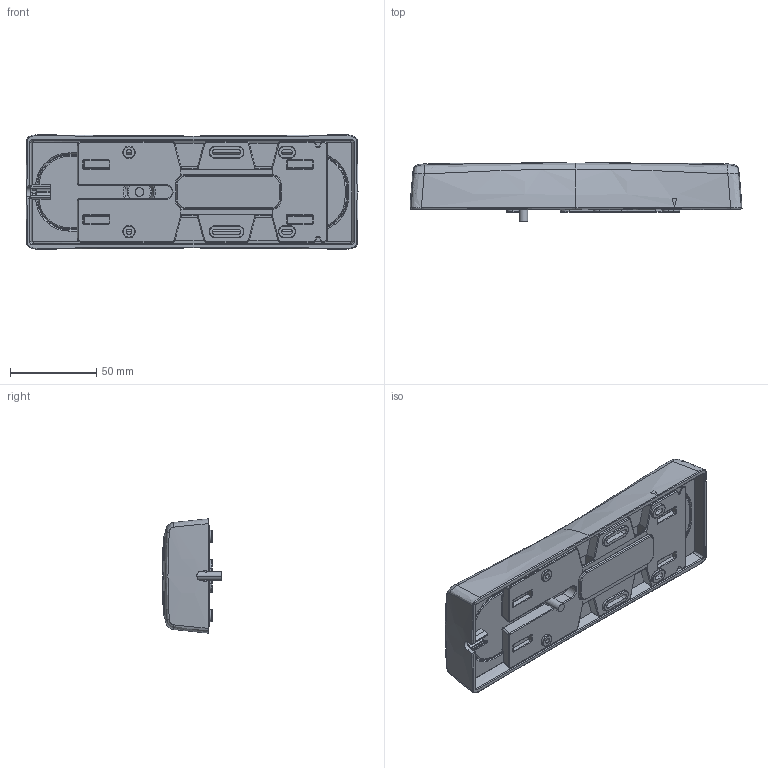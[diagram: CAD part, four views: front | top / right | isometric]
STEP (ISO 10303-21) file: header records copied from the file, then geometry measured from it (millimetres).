
FILE_DESCRIPTION (( 'STEP AP203' ), '1' );
FILE_NAME ('3D_TMH29.STEP', '2023-01-12T06:25:42', ( '' ), ( '' ), 'SwSTEP 2.0', 'SolidWorks 2015', '' );
FILE_SCHEMA (( 'CONFIG_CONTROL_DESIGN' ));
Length unit declared in the file: millimetre
Products named in the file (1): 3D_TMH29
Bounding box: 192.32 x 34.08 x 66.22 mm (x, y, z)
Volume: 144260.1 mm3; surface area: 127750.1 mm2
Topology: 8 solids, 8 shells, 1828 faces, 4706 edges, 2915 vertices
Faces by surface type: plane 907, cylinder 563, bspline 154, torus 118, cone 48, sphere 38
Entity records: 61221 total; most frequent: CARTESIAN_POINT 18345, ORIENTED_EDGE 9344, DIRECTION 8404, EDGE_CURVE 4672, VERTEX_POINT 2911, AXIS2_PLACEMENT_3D 2848, VECTOR 2708, LINE 2708
